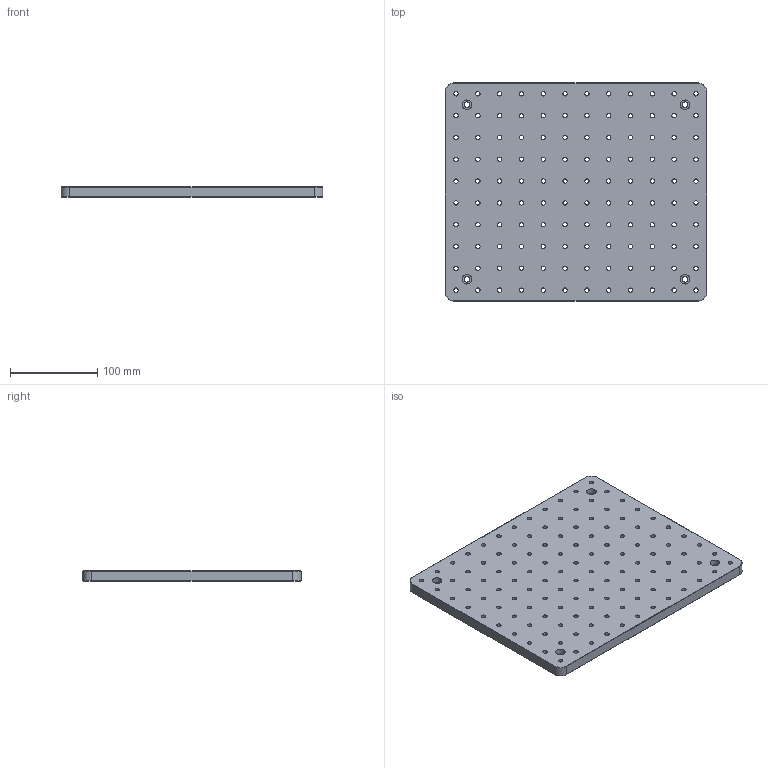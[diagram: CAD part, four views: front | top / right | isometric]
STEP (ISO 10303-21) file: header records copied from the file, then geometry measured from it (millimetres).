
FILE_DESCRIPTION (( 'STEP AP214' ), '1' );
FILE_NAME ('Ãæ°ü°å300-250.STEP', '2026-07-14T08:04:46', ( '' ), ( '' ), 'SwSTEP 2.0', 'SolidWorks 2024', '' );
FILE_SCHEMA (( 'AUTOMOTIVE_DESIGN' ));
Length unit declared in the file: millimetre
Products named in the file (1): 面包板300-250
Bounding box: 300 x 250 x 12 mm (x, y, z)
Volume: 867301.7 mm3; surface area: 181446.1 mm2
Topology: 1 solids, 1 shells, 286 faces, 824 edges, 544 vertices
Faces by surface type: cylinder 260, plane 18, cone 8
Entity records: 10207 total; most frequent: DIRECTION 1926, CARTESIAN_POINT 1655, ORIENTED_EDGE 1648, EDGE_CURVE 824, AXIS2_PLACEMENT_3D 815, VERTEX_POINT 544, EDGE_LOOP 538, CIRCLE 528
